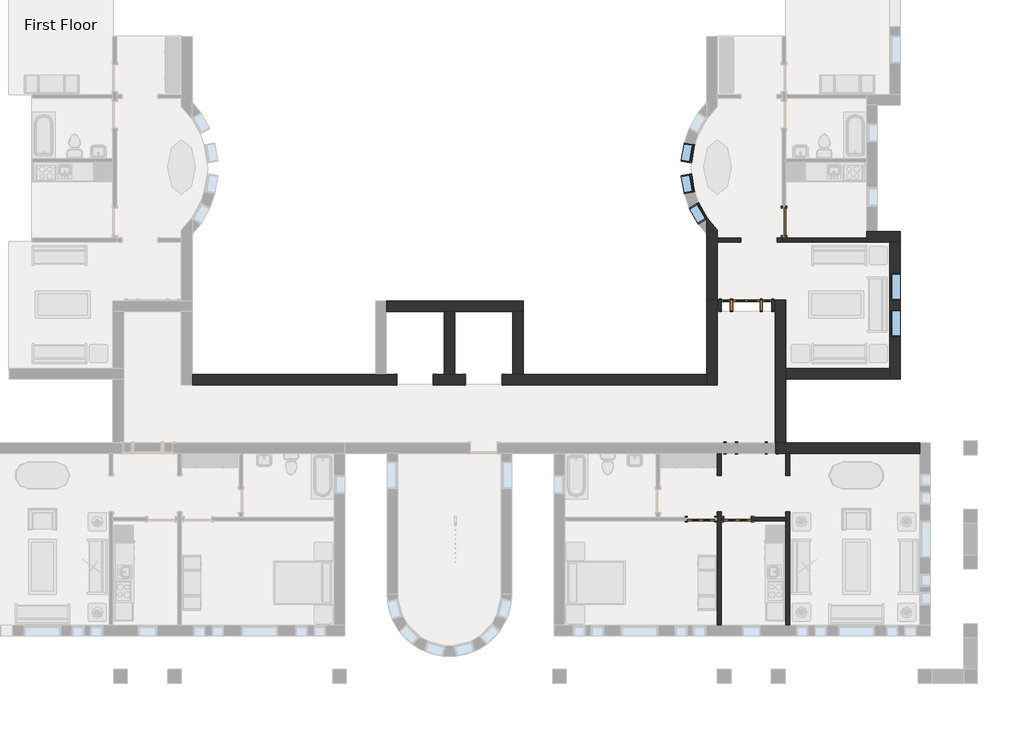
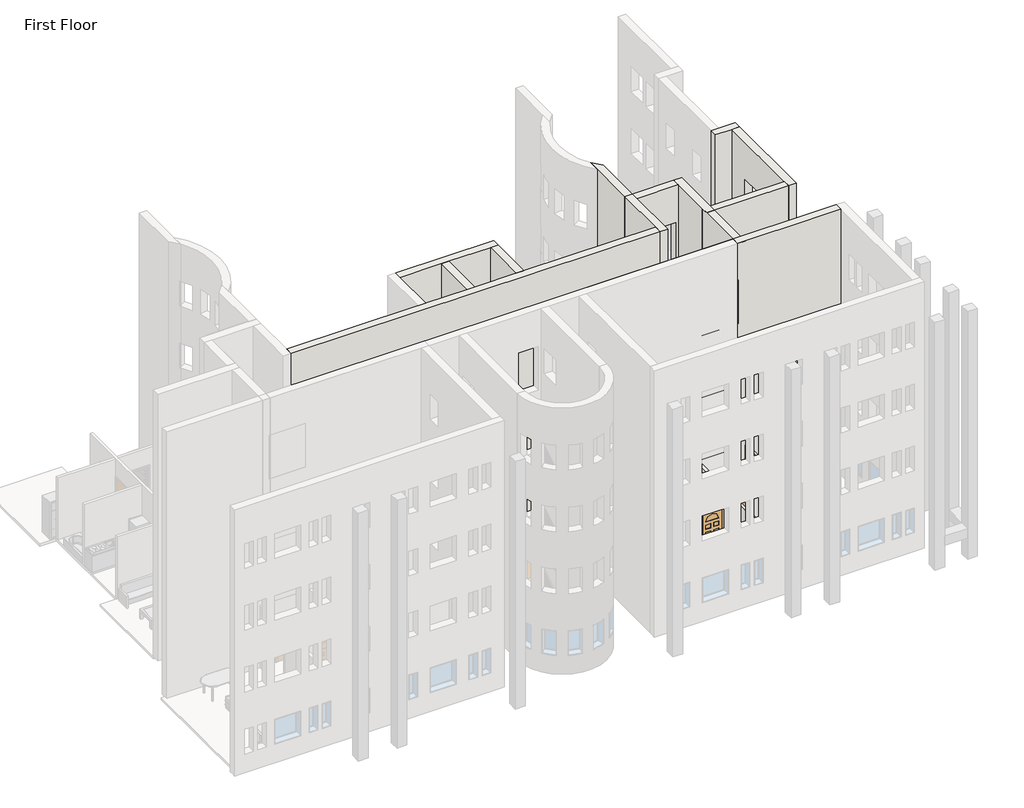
# One storey, part 6 of 21: 18 walls, 5 doors, 5 windows.
"""IFC4 building model written with IfcOpenShell, lengths in millimetres."""

from ifc_helpers import new_model, si_unit, frame, origin, origin_with_axes, place, context, project, spatial, polyline, circle_curve, outline, extrude, faceted_brep, transform, mapped, element, save
from ifc_brep_helpers import plane_surface, revolved_surface, advanced_brep
from components import door_829da954, door_2e3b4da2, door_a1797ceb, door_dba5aa2e, door_ffdb1193, window_60baf983, window_ed80354a, window_15c49d37

model = new_model("IFC4")

# Units and contexts
model_context = context("Model", 3, world=origin())
ifc_project = project(units=[si_unit("LENGTHUNIT", "METRE", prefix="MILLI")], contexts=[model_context])

# Site, building, storey
site = spatial("IfcSite", under=ifc_project)
building = spatial("IfcBuilding", under=site)
storey = spatial("IfcBuildingStorey", under=building, Name="First Floor", Elevation=0.0)

# Doors
placement = place(None, origin())
door_shape = door_829da954(model_context)
element("IfcDoor", 1, ObjectType="Single-Decorative 2 : 36\" x 84\"", at=placement, inside=storey, context=model_context, shape_type="MappedRepresentation", body=[
    mapped(door_shape, transform((-6669.0589563, -30414.4308133, 0.0), x_axis=(1.0, 0.0, 0.0), y_axis=(0.0, 1.0, 0.0), z_axis=(0.0, 0.0, 1.0))),
])
door_2_shape = door_2e3b4da2(model_context)
element("IfcDoor", 2, ObjectType="Single-Decorative 2 : 36\" x 84\"", at=placement, inside=storey, context=model_context, shape_type="MappedRepresentation", body=[
    mapped(door_2_shape, transform((-5449.8589563, -30414.4308133, 0.0), x_axis=(-1.0, 0.0, 0.0), y_axis=(0.0, -1.0, 0.0), z_axis=(0.0, 0.0, 1.0))),
])
door_3_shape = door_a1797ceb(model_context)
element("IfcDoor", 3, ObjectType="Single-Flush : 36\" x 84\"", at=placement, inside=storey, context=model_context, shape_type="MappedRepresentation", body=[
    mapped(door_3_shape, transform((-3900.4589563, -20492.5558133, 0.0), x_axis=(0.0, -1.0, 0.0), y_axis=(1.0, 0.0, 0.0), z_axis=(0.0, 0.0, 1.0))),
])
door_4_shape = door_dba5aa2e(model_context)
element("IfcDoor", 4, ObjectType="Single-Raised Panel with Sidelights : 36\" x 84\"", at=placement, inside=storey, context=model_context, shape_type="MappedRepresentation", body=[
    mapped(door_4_shape, transform((-5156.1714563, -23275.4433133, 0.0), x_axis=(-1.0, 0.0, 0.0), y_axis=(0.0, -1.0, 0.0), z_axis=(0.0, 0.0, 1.0))),
])
door_5_shape = door_ffdb1193(model_context)
element("IfcDoor", 5, ObjectType="Single-Raised Panel with Sidelights : 36\" x 84\"", at=placement, inside=storey, context=model_context, shape_type="MappedRepresentation", body=[
    mapped(door_5_shape, transform((-4992.6589563, -28041.1183133, 0.0), x_axis=(-1.0, 0.0, 0.0), y_axis=(0.0, -1.0, 0.0), z_axis=(0.0, 0.0, 1.0))),
])

# Walls
element("IfcWall", 6, ObjectType="Exterior - Brick on Mtl. Stud", at=placement, inside=storey, context=model_context, shape_type="Brep", body=[
    faceted_brep([(-5830.8589563, -27864.9058133, 2133.6), (-5830.8589563, -27864.9058133, 0.0), (-11569.6714563, -27864.9058133, 0.0), (-11569.6714563, -27864.9058133, 13106.4), (622.3285437, -27864.9058133, 13106.4), (622.3285437, -27864.9058133, 0.0), (-4154.4589563, -27864.9058133, 0.0), (-4154.4589563, -27864.9058133, 2133.6), (-4154.4589563, -27864.9058133, 6096.0), (-4154.4589563, -27864.9058133, 8229.6), (-5830.8589563, -27864.9058133, 8229.6), (-5830.8589563, -27864.9058133, 6096.0), (-4154.4589563, -27864.9058133, 3048.0), (-4154.4589563, -27864.9058133, 5181.6), (-5830.8589563, -27864.9058133, 5181.6), (-5830.8589563, -27864.9058133, 3048.0), (-4154.4589563, -27864.9058133, 9144.0), (-4154.4589563, -27864.9058133, 11277.6), (-5830.8589563, -27864.9058133, 11277.6), (-5830.8589563, -27864.9058133, 9144.0), (-11569.6714563, -28217.3308133, 0.0), (-11217.2464563, -28217.3308133, 0.0), (-8169.2464563, -28217.3308133, 0.0), (-8042.2464563, -28217.3308133, 0.0), (-6122.9589563, -28217.3308133, 0.0), (-5995.9589563, -28217.3308133, 0.0), (-5830.8589563, -28217.3308133, 0.0), (-5830.8589563, -28217.3308133, 2133.6), (-4154.4589563, -28217.3308133, 2133.6), (-4154.4589563, -28217.3308133, 0.0), (-3836.9589563, -28217.3308133, 0.0), (-3709.9589563, -28217.3308133, 0.0), (622.3285437, -28217.3308133, 0.0), (622.3285437, -28217.3308133, 13106.4), (-11217.2464563, -28217.3308133, 13106.4), (-11569.6714563, -28217.3308133, 13106.4), (-4154.4589563, -28217.3308133, 6096.0), (-5830.8589563, -28217.3308133, 6096.0), (-5830.8589563, -28217.3308133, 8229.6), (-4154.4589563, -28217.3308133, 8229.6), (-4154.4589563, -28217.3308133, 3048.0), (-5830.8589563, -28217.3308133, 3048.0), (-5830.8589563, -28217.3308133, 5181.6), (-4154.4589563, -28217.3308133, 5181.6), (-4154.4589563, -28217.3308133, 9144.0), (-5830.8589563, -28217.3308133, 9144.0), (-5830.8589563, -28217.3308133, 11277.6), (-4154.4589563, -28217.3308133, 11277.6)], [[[0, 1, 2, 3, 4, 5, 6, 7], [8, 9, 10, 11], [12, 13, 14, 15], [16, 17, 18, 19]], [[20, 21, 22, 23, 24, 25, 26, 27, 28, 29, 30, 31, 32, 33, 34, 35], [36, 37, 38, 39], [40, 41, 42, 43], [44, 45, 46, 47]], [[2, 1, 26, 25, 24, 23, 22, 21, 20]], [[6, 5, 32, 31, 30, 29]], [[4, 3, 35, 34, 33]], [[3, 2, 20, 35]], [[5, 4, 33, 32]], [[27, 26, 1, 0]], [[28, 27, 0, 7]], [[29, 28, 7, 6]], [[37, 36, 8, 11]], [[38, 37, 11, 10]], [[39, 38, 10, 9]], [[36, 39, 9, 8]], [[41, 40, 12, 15]], [[42, 41, 15, 14]], [[43, 42, 14, 13]], [[40, 43, 13, 12]], [[45, 44, 16, 19]], [[46, 45, 19, 18]], [[47, 46, 18, 17]], [[44, 47, 17, 16]]]),
])
element("IfcWall", 7, ObjectType="Exterior - Brick on Mtl. Stud", at=placement, inside=storey, context=model_context, shape_type="Brep", body=[
    faceted_brep([(-17171.9589563, -23492.9308133, 0.0), (-15238.3839563, -23492.9308133, 0.0), (-14885.9589563, -23492.9308133, 0.0), (-12952.3839563, -23492.9308133, 0.0), (-12599.9589563, -23492.9308133, 0.0), (-12599.9589563, -23492.9308133, 13106.4), (-12952.3839563, -23492.9308133, 13106.4), (-14885.9589563, -23492.9308133, 13106.4), (-15238.3839563, -23492.9308133, 13106.4), (-17171.9589563, -23492.9308133, 13106.4), (-17171.9589563, -23140.5058133, 0.0), (-17171.9589563, -23140.5058133, 13106.4), (-12599.9589563, -23140.5058133, 13106.4), (-12599.9589563, -23140.5058133, 0.0)], [[[0, 1, 2, 3, 4, 5, 6, 7, 8, 9]], [[10, 11, 12, 13]], [[4, 3, 2, 1, 0, 10, 13]], [[9, 8, 7, 6, 5, 12, 11]], [[5, 4, 13, 12]], [[0, 9, 11, 10]]]),
])
element("IfcWall", 8, ObjectType="Exterior - Brick on Mtl. Stud", at=placement, inside=storey, context=model_context, shape_type="SweptSolid", body=[
    extrude(outline(polyline([(-12952.3839563, -25578.9058133), (-12952.3839563, -23492.9308133), (-12599.9589563, -23492.9308133), (-12599.9589563, -25578.9058133), (-12952.3839563, -25578.9058133)])), origin_with_axes(), (0.0, 0.0, 1.0), 13106.4),
])
element("IfcWall", 9, ObjectType="Exterior - Brick on Mtl. Stud", at=placement, inside=storey, context=model_context, shape_type="Brep", body=[
    faceted_brep([(-15595.5714563, -25931.3308133, 0.0), (-14528.7714563, -25931.3308133, 0.0), (-14528.7714563, -25931.3308133, 2133.6), (-13309.5714563, -25931.3308133, 2133.6), (-13309.5714563, -25931.3308133, 0.0), (-6475.3839563, -25931.3308133, 0.0), (-6475.3839563, -25931.3308133, 13106.4), (-23648.9589563, -25931.3308133, 13106.4), (-23648.9589563, -25931.3308133, 0.0), (-16814.7714563, -25931.3308133, 0.0), (-16814.7714563, -25931.3308133, 2133.6), (-15595.5714563, -25931.3308133, 2133.6), (-13309.5714563, -25931.3308133, 8229.6), (-13309.5714563, -25931.3308133, 6096.0), (-14528.7714563, -25931.3308133, 6096.0), (-14528.7714563, -25931.3308133, 8229.6), (-15595.5714563, -25931.3308133, 8229.6), (-15595.5714563, -25931.3308133, 6096.0), (-16814.7714563, -25931.3308133, 6096.0), (-16814.7714563, -25931.3308133, 8229.6), (-13309.5714563, -25931.3308133, 5181.6), (-13309.5714563, -25931.3308133, 3048.0), (-14528.7714563, -25931.3308133, 3048.0), (-14528.7714563, -25931.3308133, 5181.6), (-15595.5714563, -25931.3308133, 5181.6), (-15595.5714563, -25931.3308133, 3048.0), (-16814.7714563, -25931.3308133, 3048.0), (-16814.7714563, -25931.3308133, 5181.6), (-13309.5714563, -25931.3308133, 11277.6), (-13309.5714563, -25931.3308133, 9144.0), (-14528.7714563, -25931.3308133, 9144.0), (-14528.7714563, -25931.3308133, 11277.6), (-15595.5714563, -25931.3308133, 11277.6), (-15595.5714563, -25931.3308133, 9144.0), (-16814.7714563, -25931.3308133, 9144.0), (-16814.7714563, -25931.3308133, 11277.6), (-14528.7714563, -25578.9058133, 2133.6), (-14528.7714563, -25578.9058133, 0.0), (-14885.9589563, -25578.9058133, 0.0), (-15238.3839563, -25578.9058133, 0.0), (-15595.5714563, -25578.9058133, 0.0), (-15595.5714563, -25578.9058133, 2133.6), (-16814.7714563, -25578.9058133, 2133.6), (-16814.7714563, -25578.9058133, 0.0), (-17171.9589563, -25578.9058133, 0.0), (-17524.3839563, -25578.9058133, 0.0), (-23648.9589563, -25578.9058133, 0.0), (-23648.9589563, -25578.9058133, 13106.4), (-17524.3839563, -25578.9058133, 13106.4), (-17171.9589563, -25578.9058133, 13106.4), (-15238.3839563, -25578.9058133, 13106.4), (-14885.9589563, -25578.9058133, 13106.4), (-12952.3839563, -25578.9058133, 13106.4), (-12599.9589563, -25578.9058133, 13106.4), (-6475.3839563, -25578.9058133, 13106.4), (-6475.3839563, -25578.9058133, 0.0), (-12599.9589563, -25578.9058133, 0.0), (-12952.3839563, -25578.9058133, 0.0), (-13309.5714563, -25578.9058133, 0.0), (-13309.5714563, -25578.9058133, 2133.6), (-13309.5714563, -25578.9058133, 8229.6), (-14528.7714563, -25578.9058133, 8229.6), (-14528.7714563, -25578.9058133, 6096.0), (-13309.5714563, -25578.9058133, 6096.0), (-15595.5714563, -25578.9058133, 8229.6), (-16814.7714563, -25578.9058133, 8229.6), (-16814.7714563, -25578.9058133, 6096.0), (-15595.5714563, -25578.9058133, 6096.0), (-13309.5714563, -25578.9058133, 5181.6), (-14528.7714563, -25578.9058133, 5181.6), (-14528.7714563, -25578.9058133, 3048.0), (-13309.5714563, -25578.9058133, 3048.0), (-15595.5714563, -25578.9058133, 5181.6), (-16814.7714563, -25578.9058133, 5181.6), (-16814.7714563, -25578.9058133, 3048.0), (-15595.5714563, -25578.9058133, 3048.0), (-13309.5714563, -25578.9058133, 11277.6), (-14528.7714563, -25578.9058133, 11277.6), (-14528.7714563, -25578.9058133, 9144.0), (-13309.5714563, -25578.9058133, 9144.0), (-15595.5714563, -25578.9058133, 11277.6), (-16814.7714563, -25578.9058133, 11277.6), (-16814.7714563, -25578.9058133, 9144.0), (-15595.5714563, -25578.9058133, 9144.0)], [[[0, 1, 2, 3, 4, 5, 6, 7, 8, 9, 10, 11], [12, 13, 14, 15], [16, 17, 18, 19], [20, 21, 22, 23], [24, 25, 26, 27], [28, 29, 30, 31], [32, 33, 34, 35]], [[36, 37, 38, 39, 40, 41, 42, 43, 44, 45, 46, 47, 48, 49, 50, 51, 52, 53, 54, 55, 56, 57, 58, 59], [60, 61, 62, 63], [64, 65, 66, 67], [68, 69, 70, 71], [72, 73, 74, 75], [76, 77, 78, 79], [80, 81, 82, 83]], [[46, 45, 44, 43, 9, 8]], [[40, 39, 38, 37, 1, 0]], [[58, 57, 56, 55, 5, 4]], [[7, 6, 54, 53, 52, 51, 50, 49, 48, 47]], [[6, 5, 55, 54]], [[8, 7, 47, 46]], [[0, 11, 41, 40]], [[10, 9, 43, 42]], [[11, 10, 42, 41]], [[4, 3, 59, 58]], [[2, 1, 37, 36]], [[3, 2, 36, 59]], [[13, 12, 60, 63]], [[14, 13, 63, 62]], [[15, 14, 62, 61]], [[12, 15, 61, 60]], [[17, 16, 64, 67]], [[18, 17, 67, 66]], [[19, 18, 66, 65]], [[16, 19, 65, 64]], [[21, 20, 68, 71]], [[22, 21, 71, 70]], [[23, 22, 70, 69]], [[20, 23, 69, 68]], [[25, 24, 72, 75]], [[26, 25, 75, 74]], [[27, 26, 74, 73]], [[24, 27, 73, 72]], [[29, 28, 76, 79]], [[30, 29, 79, 78]], [[31, 30, 78, 77]], [[28, 31, 77, 76]], [[33, 32, 80, 83]], [[34, 33, 83, 82]], [[35, 34, 82, 81]], [[32, 35, 81, 80]]]),
])
element("IfcWall", 10, ObjectType="Exterior - Brick on Mtl. Stud", at=placement, inside=storey, context=model_context, shape_type="SweptSolid", body=[
    extrude(outline(polyline([(-15238.3839563, -25578.9058133), (-15238.3839563, -23492.9308133), (-14885.9589563, -23492.9308133), (-14885.9589563, -25578.9058133), (-15238.3839563, -25578.9058133)])), origin_with_axes(), (0.0, 0.0, 1.0), 13106.4),
])
element("IfcWall", 11, ObjectType="Exterior - Brick on Mtl. Stud", at=placement, inside=storey, context=model_context, shape_type="Brep", body=[
    faceted_brep([(-6122.9589563, -25931.3308133, 0.0), (-6122.9589563, -23451.6558133, 0.0), (-6122.9589563, -23099.2308133, 0.0), (-6122.9589563, -23099.2308133, 13106.4), (-6122.9589563, -23451.6558133, 13106.4), (-6122.9589563, -25931.3308133, 13106.4), (-6475.3839563, -25931.3308133, 0.0), (-6475.3839563, -25931.3308133, 13106.4), (-6475.3839563, -25578.9058133, 13106.4), (-6475.3839563, -23099.2308133, 13106.4), (-6475.3839563, -23099.2308133, 0.0), (-6475.3839563, -25578.9058133, 0.0)], [[[0, 1, 2, 3, 4, 5]], [[6, 7, 8, 9, 10, 11]], [[2, 1, 0, 6, 11, 10]], [[5, 4, 3, 9, 8, 7]], [[0, 5, 7, 6]], [[3, 2, 10, 9]]]),
])
element("IfcWall", 12, ObjectType="Exterior - Brick on Mtl. Stud", at=placement, inside=storey, context=model_context, shape_type="Brep", body=[
    faceted_brep([(-4189.3839563, -23099.2308133, 0.0), (-4189.3839563, -23451.6558133, 0.0), (-4189.3839563, -27864.9058133, 0.0), (-4189.3839563, -28217.3308133, 0.0), (-4189.3839563, -28217.3308133, 13106.4), (-4189.3839563, -27864.9058133, 13106.4), (-4189.3839563, -23451.6558133, 13106.4), (-4189.3839563, -23099.2308133, 13106.4), (-3836.9589563, -23099.2308133, 0.0), (-3836.9589563, -23099.2308133, 13106.4), (-3836.9589563, -28217.3308133, 13106.4), (-3836.9589563, -28217.3308133, 0.0)], [[[0, 1, 2, 3, 4, 5, 6, 7]], [[8, 9, 10, 11]], [[3, 2, 1, 0, 8, 11]], [[7, 6, 5, 4, 10, 9]], [[4, 3, 11, 10]], [[0, 7, 9, 8]]]),
])
element("IfcWall", 13, ObjectType="Exterior - Brick on Mtl. Stud", at=placement, inside=storey, context=model_context, shape_type="Brep", body=[
    faceted_brep([(-379.3839563, -25385.2308133, 0.0), (-3836.9589563, -25385.2308133, 0.0), (-4189.3839563, -25385.2308133, 0.0), (-4189.3839563, -25385.2308133, 13106.4), (-3836.9589563, -25385.2308133, 13106.4), (-379.3839563, -25385.2308133, 13106.4), (-379.3839563, -25737.6558133, 0.0), (-379.3839563, -25737.6558133, 13106.4), (-4189.3839563, -25737.6558133, 13106.4), (-4189.3839563, -25737.6558133, 0.0)], [[[0, 1, 2, 3, 4, 5]], [[6, 7, 8, 9]], [[2, 1, 0, 6, 9]], [[5, 4, 3, 8, 7]], [[3, 2, 9, 8]], [[0, 5, 7, 6]]]),
])
element("IfcWall", 14, ObjectType="Exterior - Brick on Mtl. Stud", at=placement, inside=storey, context=model_context, shape_type="Brep", body=[
    faceted_brep([(-3836.9589563, -25385.2308133, 0.0), (-3836.9589563, -23099.2308133, 0.0), (-3836.9589563, -23099.2308133, 13106.4), (-3836.9589563, -25385.2308133, 13106.4), (-4189.3839563, -25385.2308133, 0.0), (-4189.3839563, -25385.2308133, 13106.4), (-4189.3839563, -23451.6558133, 13106.4), (-4189.3839563, -23099.2308133, 13106.4), (-4189.3839563, -23099.2308133, 0.0), (-4189.3839563, -23451.6558133, 0.0)], [[[0, 1, 2, 3]], [[4, 5, 6, 7, 8, 9]], [[1, 0, 4, 9, 8]], [[3, 2, 7, 6, 5]], [[0, 3, 5, 4]], [[2, 1, 8, 7]]]),
])
element("IfcWall", 15, ObjectType="Exterior - Brick on Mtl. Stud", at=placement, inside=storey, context=model_context, shape_type="SweptSolid", body=[
    extrude(outline(polyline([(0.0, -6122.9589563), (0.0, -5994.3714563), (2133.6, -5994.3714563), (2133.6, -4317.9714563), (0.0, -4317.9714563), (0.0, -4189.3839563), (13106.4, -4189.3839563), (13106.4, -6122.9589563), (0.0, -6122.9589563)]), holes=[polyline([(6096.0, -4317.9714563), (6096.0, -5994.3714563), (8229.6, -5994.3714563), (8229.6, -4317.9714563), (6096.0, -4317.9714563)]), polyline([(3048.0, -4317.9714563), (3048.0, -5994.3714563), (5181.6, -5994.3714563), (5181.6, -4317.9714563), (3048.0, -4317.9714563)]), polyline([(9144.0, -4317.9714563), (9144.0, -5994.3714563), (11277.6, -5994.3714563), (11277.6, -4317.9714563), (9144.0, -4317.9714563)])]), frame((0.0, -23451.6558133, 0.0), z_axis=(0.0, 1.0, 0.0), x_axis=(0.0, 0.0, 1.0)), (0.0, 0.0, 1.0), 352.425),
])
element("IfcWall", 16, ObjectType="Exterior - Brick on Mtl. Stud", at=placement, inside=storey, context=model_context, shape_type="AdvancedBrep", body=[
    advanced_brep(
    [(-6122.9589563, -23099.2308133, 0.0), (-6122.9589563, -21165.6558133, 0.0), (-6122.9589563, -21038.6558133, 0.0), (-6122.9589563, -20763.827661, 0.0), (-6122.9589563, -20763.827661, 13106.4), (-6122.9589563, -23099.2308133, 13106.4), (-6475.3839563, -20349.9339631, 0.0), (-6475.3839563, -20907.8285473, 0.0), (-6475.3839563, -23099.2308133, 0.0), (-6475.3839563, -23099.2308133, 13106.4), (-6475.3839563, -20907.8285473, 13106.4), (-6475.3839563, -20349.9339631, 13106.4), (-6475.3839563, -20349.9339631, 11277.6), (-6475.3839563, -20399.222211, 11277.6), (-6475.3839563, -20399.222211, 10058.4), (-6475.3839563, -20349.9339631, 10058.4), (-6475.3839563, -20349.9339631, 8229.6), (-6475.3839563, -20399.222211, 8229.6), (-6475.3839563, -20399.222211, 7010.4), (-6475.3839563, -20349.9339631, 7010.4), (-6475.3839563, -20349.9339631, 5181.6), (-6475.3839563, -20399.222211, 5181.6), (-6475.3839563, -20399.222211, 3962.4), (-6475.3839563, -20349.9339631, 3962.4), (-6475.3839563, -20349.9339631, 2133.6), (-6475.3839563, -20399.222211, 2133.6), (-6475.3839563, -20399.222211, 914.4), (-6475.3839563, -20349.9339631, 914.4), (-6469.8279046, -20357.8454649, 914.4), (-6469.8279046, -20357.8454649, 2133.6), (-6469.8279046, -20357.8454649, 3962.4), (-6469.8279046, -20357.8454649, 5181.6), (-6469.8279046, -20357.8454649, 7010.4), (-6469.8279046, -20357.8454649, 8229.6), (-6469.8279046, -20357.8454649, 10058.4), (-6469.8279046, -20357.8454649, 11277.6), (-6453.370745, -20386.6414793, 914.4), (-6453.370745, -20386.6414793, 2133.6), (-6453.370745, -20386.6414793, 10058.4), (-6453.370745, -20386.6414793, 11277.6), (-6453.370745, -20386.6414793, 3962.4), (-6453.370745, -20386.6414793, 5181.6), (-6453.370745, -20386.6414793, 7010.4), (-6453.370745, -20386.6414793, 8229.6)],
    [
        (0, 1),
        (1, 2),
        (2, 3),
        (3, 4),
        (4, 5),
        (5, 0),
        (6, 7),
        (7, 8),
        (8, 9),
        (9, 10),
        (10, 11),
        (11, 12),
        (12, 13),
        (13, 14),
        (14, 15),
        (15, 16),
        (16, 17),
        (17, 18),
        (18, 19),
        (19, 20),
        (20, 21),
        (21, 22),
        (22, 23),
        (23, 24),
        (24, 25),
        (25, 26),
        (26, 27),
        (27, 6),
        (0, 8),
        (6, 3, circle_curve(frame((-4122.4640713, -18703.4433133, 0.0), z_axis=(0.0, 0.0, 1.0), x_axis=(0.0, -1.0, 0.0)), 2871.7875)),
        (4, 11, circle_curve(frame((-4122.4640713, -18703.4433133, 13106.4), z_axis=(0.0, 0.0, -1.0), x_axis=(0.0, -1.0, 0.0)), 2871.7875)),
        (9, 5),
        (27, 28, circle_curve(frame((-4122.4640713, -18703.4433133, 914.4), z_axis=(0.0, 0.0, 1.0), x_axis=(0.0, -1.0, 0.0)), 2871.7875)),
        (28, 29),
        (29, 24, circle_curve(frame((-4122.4640713, -18703.4433133, 2133.6), z_axis=(0.0, 0.0, -1.0), x_axis=(0.0, -1.0, 0.0)), 2871.7875)),
        (23, 30, circle_curve(frame((-4122.4640713, -18703.4433133, 3962.4), z_axis=(0.0, 0.0, 1.0), x_axis=(0.0, -1.0, 0.0)), 2871.7875)),
        (30, 31),
        (31, 20, circle_curve(frame((-4122.4640713, -18703.4433133, 5181.6), z_axis=(0.0, 0.0, -1.0), x_axis=(0.0, -1.0, 0.0)), 2871.7875)),
        (19, 32, circle_curve(frame((-4122.4640713, -18703.4433133, 7010.4), z_axis=(0.0, 0.0, 1.0), x_axis=(0.0, -1.0, 0.0)), 2871.7875)),
        (32, 33),
        (33, 16, circle_curve(frame((-4122.4640713, -18703.4433133, 8229.6), z_axis=(0.0, 0.0, -1.0), x_axis=(0.0, -1.0, 0.0)), 2871.7875)),
        (15, 34, circle_curve(frame((-4122.4640713, -18703.4433133, 10058.4), z_axis=(0.0, 0.0, 1.0), x_axis=(0.0, -1.0, 0.0)), 2871.7875)),
        (34, 35),
        (35, 12, circle_curve(frame((-4122.4640713, -18703.4433133, 11277.6), z_axis=(0.0, 0.0, -1.0), x_axis=(0.0, -1.0, 0.0)), 2871.7875)),
        (36, 37),
        (37, 29),
        (28, 36),
        (26, 36),
        (25, 37),
        (38, 39),
        (39, 35),
        (34, 38),
        (14, 38),
        (13, 39),
        (40, 41),
        (41, 31),
        (30, 40),
        (22, 40),
        (21, 41),
        (42, 43),
        (43, 33),
        (32, 42),
        (18, 42),
        (17, 43),
    ],
    [
        plane_surface(frame((-6122.9589563, -23275.4433133, 0.0), z_axis=(1.0, 0.0, 0.0), x_axis=(0.0, 1.0, 0.0))),
        plane_surface(frame((-6475.3839563, -23275.4433133, 0.0), z_axis=(-1.0, 0.0, 0.0), x_axis=(0.0, -1.0, 0.0))),
        plane_surface(frame((-6122.9589563, -23275.4433133, 0.0), z_axis=(0.0, 0.0, -1.0), x_axis=(-1.0, 0.0, 0.0))),
        plane_surface(frame((-6122.9589563, -20837.0433133, 13106.4), z_axis=(0.0, 0.0, 1.0), x_axis=(-1.0, 0.0, 0.0))),
        revolved_surface(polyline([(-4122.4640713, -21575.230813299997, 0.0), (-4122.4640713, -21575.230813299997, 13106.4)]), (-4122.4640713, -18703.4433133, 0.0), (0.0, 0.0, -1.0)),
        plane_surface(frame((-4013.1714563, -23099.2308133, 0.0), z_axis=(0.0, -1.0, 0.0), x_axis=(-1.0, 0.0, 0.0))),
        plane_surface(frame((-6755.8488292, -19857.3786253, 2133.6), z_axis=(-0.8682133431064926, -0.4961910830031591, 0.0), x_axis=(0.0, 0.0, 1.0))),
        plane_surface(frame((-7060.4570928, -20031.4647592, 914.4), z_axis=(0.0, 0.0, 1.0), x_axis=(0.8682133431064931, 0.496191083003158, 0.0))),
        plane_surface(frame((-6757.9790086, -20560.7276131, 914.4), z_axis=(-0.496191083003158, 0.8682133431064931, 0.0), x_axis=(0.8682133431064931, 0.496191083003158, 0.0))),
        plane_surface(frame((-6757.9790086, -20560.7276131, 2133.6), z_axis=(0.0, 0.0, -1.0), x_axis=(0.8682133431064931, 0.496191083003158, 0.0))),
        plane_surface(frame((-6755.8488292, -19857.3786253, 11277.6), z_axis=(-0.8682133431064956, -0.49619108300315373, 0.0), x_axis=(0.0, 0.0, 1.0))),
        plane_surface(frame((-7060.4570928, -20031.4647592, 10058.4), z_axis=(0.0, 0.0, 1.0), x_axis=(0.8682133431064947, 0.49619108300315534, 0.0))),
        plane_surface(frame((-6757.9790086, -20560.7276131, 10058.4), z_axis=(-0.49619108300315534, 0.8682133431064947, 0.0), x_axis=(0.8682133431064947, 0.49619108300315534, 0.0))),
        plane_surface(frame((-6757.9790086, -20560.7276131, 11277.6), z_axis=(0.0, 0.0, -1.0), x_axis=(0.8682133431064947, 0.49619108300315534, 0.0))),
        plane_surface(frame((-6755.8488292, -19857.3786253, 5181.6), z_axis=(-0.8682133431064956, -0.49619108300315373, 0.0), x_axis=(0.0, 0.0, 1.0))),
        plane_surface(frame((-7060.4570928, -20031.4647592, 3962.4), z_axis=(0.0, 0.0, 1.0), x_axis=(0.8682133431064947, 0.49619108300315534, 0.0))),
        plane_surface(frame((-6757.9790086, -20560.7276131, 3962.4), z_axis=(-0.49619108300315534, 0.8682133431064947, 0.0), x_axis=(0.8682133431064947, 0.49619108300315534, 0.0))),
        plane_surface(frame((-6757.9790086, -20560.7276131, 5181.6), z_axis=(0.0, 0.0, -1.0), x_axis=(0.8682133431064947, 0.49619108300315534, 0.0))),
        plane_surface(frame((-6755.8488292, -19857.3786253, 8229.6), z_axis=(-0.8682133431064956, -0.49619108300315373, 0.0), x_axis=(0.0, 0.0, 1.0))),
        plane_surface(frame((-7060.4570928, -20031.4647592, 7010.4), z_axis=(0.0, 0.0, 1.0), x_axis=(0.8682133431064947, 0.49619108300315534, 0.0))),
        plane_surface(frame((-6757.9790086, -20560.7276131, 7010.4), z_axis=(-0.49619108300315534, 0.8682133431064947, 0.0), x_axis=(0.8682133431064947, 0.49619108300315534, 0.0))),
        plane_surface(frame((-6757.9790086, -20560.7276131, 8229.6), z_axis=(0.0, 0.0, -1.0), x_axis=(0.8682133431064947, 0.49619108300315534, 0.0))),
    ],
    [
        (0, [[1, 2, 3, 4, 5, 6]]),
        (1, [[7, 8, 9, 10, 11, 12, 13, 14, 15, 16, 17, 18, 19, 20, 21, 22, 23, 24, 25, 26, 27, 28]]),
        (2, [[-3, -2, -1, 29, -8, -7, 30]]),
        (3, [[-5, 31, -11, -10, 32]]),
        (4, [[-30, -28, 33, 34, 35, -24, 36, 37, 38, -20, 39, 40, 41, -16, 42, 43, 44, -12, -31, -4]]),
        (5, [[-6, -32, -9, -29]]),
        (6, [[45, 46, -34, 47]]),
        (7, [[48, -47, -33, -27]]),
        (8, [[-45, -48, -26, 49]]),
        (9, [[-49, -25, -35, -46]]),
        (10, [[50, 51, -43, 52]]),
        (11, [[53, -52, -42, -15]]),
        (12, [[-50, -53, -14, 54]]),
        (13, [[-54, -13, -44, -51]]),
        (14, [[55, 56, -37, 57]]),
        (15, [[58, -57, -36, -23]]),
        (16, [[-55, -58, -22, 59]]),
        (17, [[-59, -21, -38, -56]]),
        (18, [[60, 61, -40, 62]]),
        (19, [[63, -62, -39, -19]]),
        (20, [[-60, -63, -18, 64]]),
        (21, [[-64, -17, -41, -61]]),
    ],
),
])
element("IfcWall", 17, ObjectType="Exterior - Brick on Mtl. Stud", at=placement, inside=storey, context=model_context, shape_type="Brep", body=[
    faceted_brep([(-1141.3839563, -21165.6558133, 13106.4), (-1141.3839563, -21165.6558133, 3048.0), (-1141.3839563, -21165.6558133, 0.0), (-379.3839563, -21165.6558133, 0.0), (-26.9589563, -21165.6558133, 0.0), (-26.9589563, -21165.6558133, 13106.4), (-379.3839563, -21165.6558133, 13106.4), (-1141.3839563, -20813.2308133, 0.0), (-1141.3839563, -20813.2308133, 13106.4), (-788.9589563, -20813.2308133, 13106.4), (-26.9589563, -20813.2308133, 13106.4), (-26.9589563, -20813.2308133, 0.0), (-788.9589563, -20813.2308133, 0.0), (-1141.3839563, -21038.6558133, 0.0)], [[[0, 1, 2, 3, 4, 5, 6]], [[7, 8, 9, 10, 11, 12]], [[4, 3, 2, 13, 7, 12, 11]], [[0, 6, 5, 10, 9, 8]], [[0, 8, 7, 13, 2, 1]], [[5, 4, 11, 10]]]),
])
element("IfcWall", 18, ObjectType="Exterior - Brick on Mtl. Stud", at=placement, inside=storey, context=model_context, shape_type="Brep", body=[
    faceted_brep([(-379.3839563, -21165.6558133, 0.0), (-379.3839563, -25385.2308133, 0.0), (-379.3839563, -25737.6558133, 0.0), (-379.3839563, -25737.6558133, 13106.4), (-379.3839563, -25385.2308133, 13106.4), (-379.3839563, -21165.6558133, 13106.4), (-379.3839563, -22208.6433133, 8229.6), (-379.3839563, -23123.0433133, 8229.6), (-379.3839563, -23123.0433133, 7010.4), (-379.3839563, -22208.6433133, 7010.4), (-379.3839563, -23427.8433133, 8229.6), (-379.3839563, -24342.2433133, 8229.6), (-379.3839563, -24342.2433133, 7010.4), (-379.3839563, -23427.8433133, 7010.4), (-379.3839563, -22208.6433133, 5181.6), (-379.3839563, -23123.0433133, 5181.6), (-379.3839563, -23123.0433133, 3962.4), (-379.3839563, -22208.6433133, 3962.4), (-379.3839563, -23427.8433133, 5181.6), (-379.3839563, -24342.2433133, 5181.6), (-379.3839563, -24342.2433133, 3962.4), (-379.3839563, -23427.8433133, 3962.4), (-379.3839563, -22208.6433133, 11277.6), (-379.3839563, -23123.0433133, 11277.6), (-379.3839563, -23123.0433133, 10058.4), (-379.3839563, -22208.6433133, 10058.4), (-379.3839563, -23427.8433133, 11277.6), (-379.3839563, -24342.2433133, 11277.6), (-379.3839563, -24342.2433133, 10058.4), (-379.3839563, -23427.8433133, 10058.4), (-379.3839563, -22208.6433133, 2133.6), (-379.3839563, -23123.0433133, 2133.6), (-379.3839563, -23123.0433133, 914.4), (-379.3839563, -22208.6433133, 914.4), (-379.3839563, -23427.8433133, 2133.6), (-379.3839563, -24342.2433133, 2133.6), (-379.3839563, -24342.2433133, 914.4), (-379.3839563, -23427.8433133, 914.4), (-26.9589563, -21165.6558133, 0.0), (-26.9589563, -21165.6558133, 13106.4), (-26.9589563, -25737.6558133, 13106.4), (-26.9589563, -25737.6558133, 0.0), (-26.9589563, -22208.6433133, 8229.6), (-26.9589563, -22208.6433133, 7010.4), (-26.9589563, -23123.0433133, 7010.4), (-26.9589563, -23123.0433133, 8229.6), (-26.9589563, -23427.8433133, 8229.6), (-26.9589563, -23427.8433133, 7010.4), (-26.9589563, -24342.2433133, 7010.4), (-26.9589563, -24342.2433133, 8229.6), (-26.9589563, -22208.6433133, 5181.6), (-26.9589563, -22208.6433133, 3962.4), (-26.9589563, -23123.0433133, 3962.4), (-26.9589563, -23123.0433133, 5181.6), (-26.9589563, -23427.8433133, 5181.6), (-26.9589563, -23427.8433133, 3962.4), (-26.9589563, -24342.2433133, 3962.4), (-26.9589563, -24342.2433133, 5181.6), (-26.9589563, -22208.6433133, 11277.6), (-26.9589563, -22208.6433133, 10058.4), (-26.9589563, -23123.0433133, 10058.4), (-26.9589563, -23123.0433133, 11277.6), (-26.9589563, -23427.8433133, 11277.6), (-26.9589563, -23427.8433133, 10058.4), (-26.9589563, -24342.2433133, 10058.4), (-26.9589563, -24342.2433133, 11277.6), (-26.9589563, -22208.6433133, 2133.6), (-26.9589563, -22208.6433133, 914.4), (-26.9589563, -23123.0433133, 914.4), (-26.9589563, -23123.0433133, 2133.6), (-26.9589563, -23427.8433133, 2133.6), (-26.9589563, -23427.8433133, 914.4), (-26.9589563, -24342.2433133, 914.4), (-26.9589563, -24342.2433133, 2133.6)], [[[0, 1, 2, 3, 4, 5], [6, 7, 8, 9], [10, 11, 12, 13], [14, 15, 16, 17], [18, 19, 20, 21], [22, 23, 24, 25], [26, 27, 28, 29], [30, 31, 32, 33], [34, 35, 36, 37]], [[38, 39, 40, 41], [42, 43, 44, 45], [46, 47, 48, 49], [50, 51, 52, 53], [54, 55, 56, 57], [58, 59, 60, 61], [62, 63, 64, 65], [66, 67, 68, 69], [70, 71, 72, 73]], [[2, 1, 0, 38, 41]], [[5, 4, 3, 40, 39]], [[3, 2, 41, 40]], [[0, 5, 39, 38]], [[43, 42, 6, 9]], [[44, 43, 9, 8]], [[45, 44, 8, 7]], [[42, 45, 7, 6]], [[47, 46, 10, 13]], [[48, 47, 13, 12]], [[49, 48, 12, 11]], [[46, 49, 11, 10]], [[51, 50, 14, 17]], [[52, 51, 17, 16]], [[53, 52, 16, 15]], [[50, 53, 15, 14]], [[55, 54, 18, 21]], [[56, 55, 21, 20]], [[57, 56, 20, 19]], [[54, 57, 19, 18]], [[59, 58, 22, 25]], [[60, 59, 25, 24]], [[61, 60, 24, 23]], [[58, 61, 23, 22]], [[63, 62, 26, 29]], [[64, 63, 29, 28]], [[65, 64, 28, 27]], [[62, 65, 27, 26]], [[67, 66, 30, 33]], [[68, 67, 33, 32]], [[69, 68, 32, 31]], [[66, 69, 31, 30]], [[71, 70, 34, 37]], [[72, 71, 37, 36]], [[73, 72, 36, 35]], [[70, 73, 35, 34]]]),
])
element("IfcWall", 19, ObjectType="Interior - 5\" Partition (2-hr)", at=placement, inside=storey, context=model_context, shape_type="Brep", body=[
    faceted_brep([(-3709.9589563, -33960.9058133, 0.0), (-3709.9589563, -30174.7183133, 0.0), (-3709.9589563, -30174.7183133, 2133.6), (-3709.9589563, -28955.5183133, 2133.6), (-3709.9589563, -28955.5183133, 0.0), (-3709.9589563, -28217.3308133, 0.0), (-3709.9589563, -28217.3308133, 3048.0), (-3709.9589563, -33960.9058133, 3048.0), (-3836.9589563, -30174.7183133, 2133.6), (-3836.9589563, -30174.7183133, 0.0), (-3836.9589563, -30350.9308133, 0.0), (-3836.9589563, -30477.9308133, 0.0), (-3836.9589563, -33960.9058133, 0.0), (-3836.9589563, -33960.9058133, 3048.0), (-3836.9589563, -30477.9308133, 3048.0), (-3836.9589563, -30350.9308133, 3048.0), (-3836.9589563, -28217.3308133, 3048.0), (-3836.9589563, -28217.3308133, 0.0), (-3836.9589563, -28955.5183133, 0.0), (-3836.9589563, -28955.5183133, 2133.6)], [[[0, 1, 2, 3, 4, 5, 6, 7]], [[8, 9, 10, 11, 12, 13, 14, 15, 16, 17, 18, 19]], [[12, 11, 10, 9, 1, 0]], [[18, 17, 5, 4]], [[7, 6, 16, 15, 14, 13]], [[0, 7, 13, 12]], [[6, 5, 17, 16]], [[4, 3, 19, 18]], [[2, 1, 9, 8]], [[3, 2, 8, 19]]]),
])
element("IfcWall", 20, ObjectType="Interior - 5\" Partition (2-hr)", at=placement, inside=storey, context=model_context, shape_type="Brep", body=[
    faceted_brep([(-5995.9589563, -28955.5183133, 2133.6), (-5995.9589563, -28955.5183133, 0.0), (-5995.9589563, -28217.3308133, 0.0), (-5995.9589563, -28217.3308133, 3048.0), (-5995.9589563, -30350.9308133, 3048.0), (-5995.9589563, -30477.9308133, 3048.0), (-5995.9589563, -33960.9058133, 3048.0), (-5995.9589563, -33960.9058133, 0.0), (-5995.9589563, -30477.9308133, 0.0), (-5995.9589563, -30350.9308133, 0.0), (-5995.9589563, -30174.7183133, 0.0), (-5995.9589563, -30174.7183133, 2133.6), (-6122.9589563, -28217.3308133, 0.0), (-6122.9589563, -28955.5183133, 0.0), (-6122.9589563, -28955.5183133, 2133.6), (-6122.9589563, -30174.7183133, 2133.6), (-6122.9589563, -30174.7183133, 0.0), (-6122.9589563, -30350.9308133, 0.0), (-6122.9589563, -30477.9308133, 0.0), (-6122.9589563, -33960.9058133, 0.0), (-6122.9589563, -33960.9058133, 3048.0), (-6122.9589563, -30477.9308133, 3048.0), (-6122.9589563, -30350.9308133, 3048.0), (-6122.9589563, -28217.3308133, 3048.0)], [[[0, 1, 2, 3, 4, 5, 6, 7, 8, 9, 10, 11]], [[12, 13, 14, 15, 16, 17, 18, 19, 20, 21, 22, 23]], [[2, 1, 13, 12]], [[10, 9, 8, 7, 19, 18, 17, 16]], [[6, 5, 4, 3, 23, 22, 21, 20]], [[7, 6, 20, 19]], [[3, 2, 12, 23]], [[16, 15, 11, 10]], [[14, 13, 1, 0]], [[15, 14, 0, 11]]]),
])
element("IfcWall", 21, ObjectType="Interior - 5\" Partition (2-hr)", at=placement, inside=storey, context=model_context, shape_type="SweptSolid", body=[
    extrude(outline(polyline([(0.0, -5995.9589563), (0.0, -5907.0589563), (2133.6, -5907.0589563), (2133.6, -4992.6589563), (0.0, -4992.6589563), (0.0, -3836.9589563), (3048.0, -3836.9589563), (3048.0, -5995.9589563), (0.0, -5995.9589563)])), frame((0.0, -30477.9308133, 0.0), z_axis=(0.0, 1.0, 0.0), x_axis=(0.0, 0.0, 1.0)), (0.0, 0.0, 1.0), 127.0),
])
element("IfcWall", 22, ObjectType="Interior - 5\" Partition (2-hr)", at=placement, inside=storey, context=model_context, shape_type="Brep", body=[
    faceted_brep([(-1141.3839563, -21038.6558133, 0.0), (-3836.9589563, -21038.6558133, 0.0), (-3963.9589563, -21038.6558133, 0.0), (-3963.9589563, -21038.6558133, 3048.0), (-3836.9589563, -21038.6558133, 3048.0), (-1141.3839563, -21038.6558133, 3048.0), (-1141.3839563, -21165.6558133, 0.0), (-1141.3839563, -21165.6558133, 3048.0), (-3963.9589563, -21165.6558133, 3048.0), (-3963.9589563, -21165.6558133, 0.0)], [[[0, 1, 2, 3, 4, 5]], [[6, 7, 8, 9]], [[2, 1, 0, 6, 9]], [[5, 4, 3, 8, 7]], [[3, 2, 9, 8]], [[0, 5, 7, 6]]]),
])
element("IfcWall", 23, ObjectType="Interior - 5\" Partition (2-hr)", at=placement, inside=storey, context=model_context, shape_type="SweptSolid", body=[
    extrude(outline(polyline([(2133.6, -4129.0589563), (0.0, -4129.0589563), (0.0, -3963.9589563), (3048.0, -3963.9589563), (3048.0, -6122.9589563), (0.0, -6122.9589563), (0.0, -5348.2589563), (2133.6, -5348.2589563), (2133.6, -4129.0589563)])), frame((0.0, -21165.6558133, 0.0), z_axis=(0.0, 1.0, 0.0), x_axis=(0.0, 0.0, 1.0)), (0.0, 0.0, 1.0), 127.0),
])

# Windows
window_shape = window_60baf983(model_context)
element("IfcWindow", 24, ObjectType="Fixed : 24\" x 48\"", at=placement, inside=storey, context=model_context, shape_type="MappedRepresentation", body=[
    mapped(window_shape, transform((-7116.7194505, -18226.3996771, 0.0), x_axis=(-0.16973229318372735, -0.9854902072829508, 0.0), y_axis=(0.9854902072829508, -0.16973229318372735, 0.0), z_axis=(0.0, 0.0, 1.0))),
])
window_2_shape = window_ed80354a(model_context)
element("IfcWindow", 25, ObjectType="Fixed : 24\" x 48\"", at=placement, inside=storey, context=model_context, shape_type="MappedRepresentation", body=[
    mapped(window_2_shape, transform((-6773.5999888, -20174.7061225, 0.0), x_axis=(-0.4961910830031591, 0.8682133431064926, 0.0), y_axis=(-0.8682133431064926, -0.4961910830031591, 0.0), z_axis=(0.0, 0.0, 1.0))),
])
element("IfcWindow", 26, ObjectType="Fixed : 24\" x 48\"", at=placement, inside=storey, context=model_context, shape_type="MappedRepresentation", body=[
    mapped(window_2_shape, transform((-7116.7194505, -19180.4869495, 0.0), x_axis=(-0.16973229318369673, 0.985490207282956, 0.0), y_axis=(-0.985490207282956, -0.16973229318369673, 0.0), z_axis=(0.0, 0.0, 1.0))),
])
window_3_shape = window_15c49d37(model_context)
element("IfcWindow", 27, ObjectType="Fixed : 36\" x 48\"", at=placement, inside=storey, context=model_context, shape_type="MappedRepresentation", body=[
    mapped(window_3_shape, transform((-203.1714563, -23846.9433133, 0.0), x_axis=(0.0, 1.0, 0.0), y_axis=(-1.0, 0.0, 0.0), z_axis=(0.0, 0.0, 1.0))),
])
element("IfcWindow", 28, ObjectType="Fixed : 36\" x 48\"", at=placement, inside=storey, context=model_context, shape_type="MappedRepresentation", body=[
    mapped(window_3_shape, transform((-203.1714563, -22627.7433133, 0.0), x_axis=(0.0, 1.0, 0.0), y_axis=(-1.0, 0.0, 0.0), z_axis=(0.0, 0.0, 1.0))),
])

save(model, "model.ifc")
